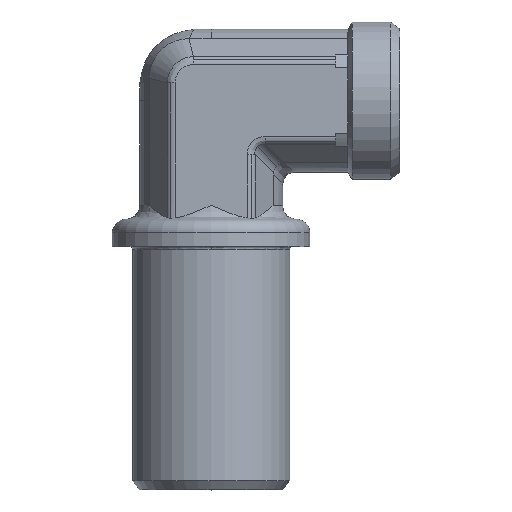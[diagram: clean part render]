
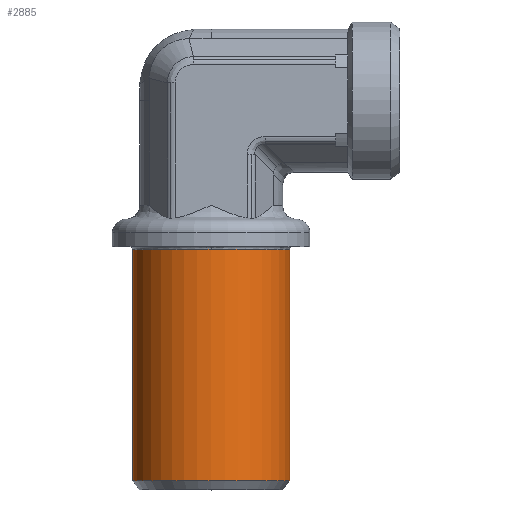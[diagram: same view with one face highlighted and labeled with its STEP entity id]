
A CAD part, top view. The second image highlights one B-rep face of the part: STEP entity #2885.
In plain terms, the highlighted cylindrical face has radius 12.925 mm (diameter 25.85 mm), a partial arc.
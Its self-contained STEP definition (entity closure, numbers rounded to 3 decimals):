
#1049=CARTESIAN_POINT('',(20.,0.,-12.925));
#1050=VERTEX_POINT('',#1049);
#1058=CARTESIAN_POINT('',(20.,-12.925,0.));
#1059=VERTEX_POINT('',#1058);
#1060=CARTESIAN_POINT('',(20.,0.,0.));
#1061=DIRECTION('',(-1.0,0.0,0.0));
#1062=DIRECTION('',(0.0,0.0,1.0));
#1063=AXIS2_PLACEMENT_3D('',#1060,#1061,#1062);
#1064=CIRCLE('',#1063,12.925);
#1065=EDGE_CURVE('',#1050,#1059,#1064,.T.);
#1091=CARTESIAN_POINT('',(58.007,0.,12.925));
#1092=VERTEX_POINT('',#1091);
#1093=CARTESIAN_POINT('',(20.,0.,12.925));
#1094=VERTEX_POINT('',#1093);
#1095=CARTESIAN_POINT('',(58.007,0.,12.925));
#1096=DIRECTION('',(-1.0,0.0,0.0));
#1097=VECTOR('',#1096,38.007);
#1098=LINE('',#1095,#1097);
#1099=EDGE_CURVE('',#1092,#1094,#1098,.T.);
#1101=CARTESIAN_POINT('',(58.007,0.,-12.925));
#1102=VERTEX_POINT('',#1101);
#1110=CARTESIAN_POINT('',(20.,0.,-12.925));
#1111=DIRECTION('',(1.0,0.0,0.0));
#1112=VECTOR('',#1111,38.007);
#1113=LINE('',#1110,#1112);
#1114=EDGE_CURVE('',#1050,#1102,#1113,.T.);
#2855=CARTESIAN_POINT('',(58.007,0.,0.));
#2856=DIRECTION('',(-1.0,0.0,0.0));
#2857=DIRECTION('',(0.0,0.0,1.0));
#2858=AXIS2_PLACEMENT_3D('',#2855,#2856,#2857);
#2859=CIRCLE('',#2858,12.925);
#2860=EDGE_CURVE('',#1102,#1092,#2859,.T.);
#2867=CARTESIAN_POINT('',(39.004,0.,0.));
#2868=DIRECTION('',(-1.0,0.,0.));
#2869=DIRECTION('',(0.0,0.0,1.0));
#2870=AXIS2_PLACEMENT_3D('',#2867,#2868,#2869);
#2871=CYLINDRICAL_SURFACE('',#2870,12.925);
#2872=ORIENTED_EDGE('',*,*,#1099,.T.);
#2873=CARTESIAN_POINT('',(20.,0.,0.));
#2874=DIRECTION('',(-1.0,0.0,0.0));
#2875=DIRECTION('',(0.0,0.0,1.0));
#2876=AXIS2_PLACEMENT_3D('',#2873,#2874,#2875);
#2877=CIRCLE('',#2876,12.925);
#2878=EDGE_CURVE('',#1059,#1094,#2877,.T.);
#2879=ORIENTED_EDGE('',*,*,#2878,.F.);
#2880=ORIENTED_EDGE('',*,*,#1065,.F.);
#2881=ORIENTED_EDGE('',*,*,#1114,.T.);
#2882=ORIENTED_EDGE('',*,*,#2860,.T.);
#2883=EDGE_LOOP('',(#2872,#2879,#2880,#2881,#2882));
#2884=FACE_OUTER_BOUND('',#2883,.T.);
#2885=ADVANCED_FACE('',(#2884),#2871,.T.);
